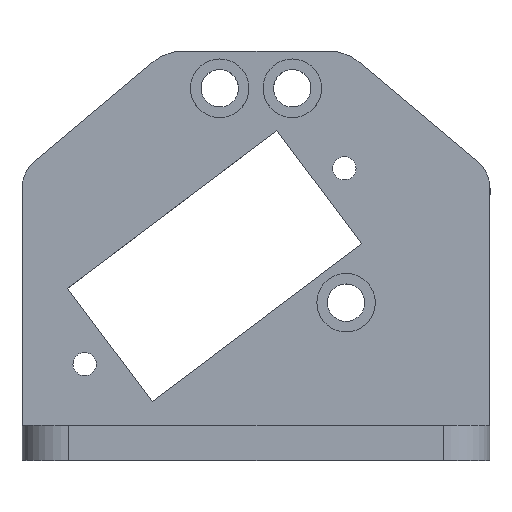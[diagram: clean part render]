
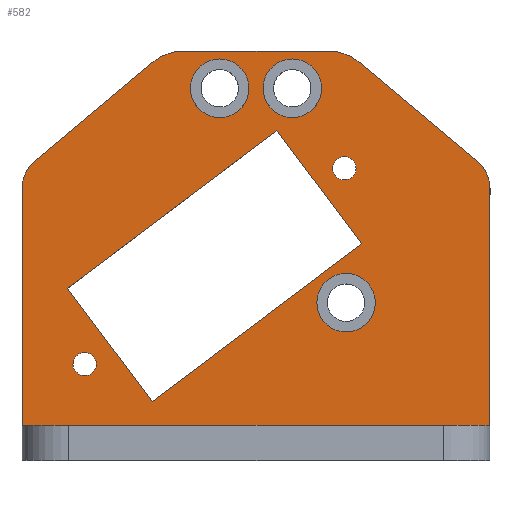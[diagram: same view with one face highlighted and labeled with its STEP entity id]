
A CAD part, top view. The second image highlights one B-rep face of the part: STEP entity #582.
In plain terms, the highlighted planar face has unit normal (0, 0, 1).
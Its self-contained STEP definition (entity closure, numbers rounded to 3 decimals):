
#24=FACE_BOUND('',#118,.T.);
#25=FACE_BOUND('',#119,.T.);
#26=FACE_BOUND('',#120,.T.);
#27=FACE_BOUND('',#121,.T.);
#28=FACE_BOUND('',#122,.T.);
#29=FACE_BOUND('',#123,.T.);
#46=PLANE('',#655);
#77=FACE_OUTER_BOUND('',#117,.T.);
#117=EDGE_LOOP('',(#519,#520,#521,#522,#523,#524,#525,#526,#527,#528));
#118=EDGE_LOOP('',(#529));
#119=EDGE_LOOP('',(#530));
#120=EDGE_LOOP('',(#531));
#121=EDGE_LOOP('',(#532));
#122=EDGE_LOOP('',(#533,#534,#535,#536));
#123=EDGE_LOOP('',(#537));
#135=LINE('',#860,#185);
#140=LINE('',#874,#190);
#151=LINE('',#913,#201);
#154=LINE('',#921,#204);
#159=LINE('',#954,#209);
#164=LINE('',#967,#214);
#166=LINE('',#971,#216);
#168=LINE('',#975,#218);
#170=LINE('',#978,#220);
#173=LINE('',#986,#223);
#185=VECTOR('',#687,10.);
#190=VECTOR('',#700,10.);
#201=VECTOR('',#735,10.);
#204=VECTOR('',#744,10.);
#209=VECTOR('',#785,10.);
#214=VECTOR('',#800,10.);
#216=VECTOR('',#804,10.);
#218=VECTOR('',#808,10.);
#220=VECTOR('',#812,10.);
#223=VECTOR('',#823,10.);
#228=CIRCLE('',#607,3.);
#238=CIRCLE('',#620,3.);
#239=CIRCLE('',#623,4.);
#240=CIRCLE('',#626,4.);
#242=CIRCLE('',#629,2.5);
#245=CIRCLE('',#634,2.5);
#248=CIRCLE('',#639,2.5);
#250=CIRCLE('',#646,1.);
#251=CIRCLE('',#652,1.);
#263=VERTEX_POINT('',#857);
#264=VERTEX_POINT('',#859);
#265=VERTEX_POINT('',#863);
#266=VERTEX_POINT('',#864);
#269=VERTEX_POINT('',#872);
#284=VERTEX_POINT('',#907);
#285=VERTEX_POINT('',#911);
#286=VERTEX_POINT('',#915);
#287=VERTEX_POINT('',#916);
#288=VERTEX_POINT('',#923);
#290=VERTEX_POINT('',#929);
#293=VERTEX_POINT('',#938);
#296=VERTEX_POINT('',#947);
#298=VERTEX_POINT('',#960);
#299=VERTEX_POINT('',#964);
#300=VERTEX_POINT('',#966);
#301=VERTEX_POINT('',#970);
#302=VERTEX_POINT('',#974);
#303=VERTEX_POINT('',#980);
#319=EDGE_CURVE('',#264,#263,#135,.T.);
#321=EDGE_CURVE('',#265,#266,#228,.T.);
#326=EDGE_CURVE('',#265,#269,#140,.T.);
#343=EDGE_CURVE('',#284,#263,#238,.T.);
#346=EDGE_CURVE('',#284,#285,#151,.T.);
#347=EDGE_CURVE('',#286,#287,#239,.T.);
#350=EDGE_CURVE('',#286,#266,#154,.T.);
#351=EDGE_CURVE('',#288,#285,#240,.T.);
#355=EDGE_CURVE('',#290,#290,#242,.T.);
#359=EDGE_CURVE('',#293,#293,#245,.T.);
#363=EDGE_CURVE('',#296,#296,#248,.T.);
#365=EDGE_CURVE('',#269,#264,#159,.T.);
#368=EDGE_CURVE('',#298,#298,#250,.T.);
#371=EDGE_CURVE('',#300,#299,#164,.T.);
#373=EDGE_CURVE('',#301,#300,#166,.T.);
#375=EDGE_CURVE('',#302,#301,#168,.T.);
#377=EDGE_CURVE('',#299,#302,#170,.T.);
#378=EDGE_CURVE('',#303,#303,#251,.T.);
#381=EDGE_CURVE('',#288,#287,#173,.T.);
#519=ORIENTED_EDGE('',*,*,#321,.F.);
#520=ORIENTED_EDGE('',*,*,#326,.T.);
#521=ORIENTED_EDGE('',*,*,#365,.T.);
#522=ORIENTED_EDGE('',*,*,#319,.T.);
#523=ORIENTED_EDGE('',*,*,#343,.F.);
#524=ORIENTED_EDGE('',*,*,#346,.T.);
#525=ORIENTED_EDGE('',*,*,#351,.F.);
#526=ORIENTED_EDGE('',*,*,#381,.T.);
#527=ORIENTED_EDGE('',*,*,#347,.F.);
#528=ORIENTED_EDGE('',*,*,#350,.T.);
#529=ORIENTED_EDGE('',*,*,#355,.T.);
#530=ORIENTED_EDGE('',*,*,#359,.T.);
#531=ORIENTED_EDGE('',*,*,#363,.T.);
#532=ORIENTED_EDGE('',*,*,#378,.T.);
#533=ORIENTED_EDGE('',*,*,#377,.T.);
#534=ORIENTED_EDGE('',*,*,#375,.T.);
#535=ORIENTED_EDGE('',*,*,#373,.T.);
#536=ORIENTED_EDGE('',*,*,#371,.T.);
#537=ORIENTED_EDGE('',*,*,#368,.T.);
#582=ADVANCED_FACE('',(#77,#24,#25,#26,#27,#28,#29),#46,.T.);
#607=AXIS2_PLACEMENT_3D('',#865,#691,#692);
#620=AXIS2_PLACEMENT_3D('',#908,#729,#730);
#623=AXIS2_PLACEMENT_3D('',#917,#738,#739);
#626=AXIS2_PLACEMENT_3D('',#924,#747,#748);
#629=AXIS2_PLACEMENT_3D('',#931,#755,#756);
#634=AXIS2_PLACEMENT_3D('',#940,#766,#767);
#639=AXIS2_PLACEMENT_3D('',#949,#777,#778);
#646=AXIS2_PLACEMENT_3D('',#961,#794,#795);
#652=AXIS2_PLACEMENT_3D('',#981,#815,#816);
#655=AXIS2_PLACEMENT_3D('',#987,#824,#825);
#687=DIRECTION('',(0.,1.,0.));
#691=DIRECTION('center_axis',(0.,0.,-1.));
#692=DIRECTION('ref_axis',(-0.906,0.423,0.));
#700=DIRECTION('',(0.,-1.,0.));
#729=DIRECTION('center_axis',(0.,0.,-1.));
#730=DIRECTION('ref_axis',(0.906,0.423,0.));
#735=DIRECTION('',(-0.766,0.643,0.));
#738=DIRECTION('center_axis',(0.,0.,-1.));
#739=DIRECTION('ref_axis',(-0.342,0.94,0.));
#744=DIRECTION('',(-0.766,-0.643,0.));
#747=DIRECTION('center_axis',(0.,0.,-1.));
#748=DIRECTION('ref_axis',(0.342,0.94,0.));
#755=DIRECTION('center_axis',(0.,0.,-1.));
#756=DIRECTION('ref_axis',(-1.,0.,0.));
#766=DIRECTION('center_axis',(0.,0.,-1.));
#767=DIRECTION('ref_axis',(-1.,0.,0.));
#777=DIRECTION('center_axis',(0.,0.,-1.));
#778=DIRECTION('ref_axis',(-1.,0.,0.));
#785=DIRECTION('',(1.,0.,0.));
#794=DIRECTION('center_axis',(0.,0.,-1.));
#795=DIRECTION('ref_axis',(1.,0.,0.));
#800=DIRECTION('',(-0.602,0.799,0.));
#804=DIRECTION('',(-0.799,-0.602,0.));
#808=DIRECTION('',(0.602,-0.799,0.));
#812=DIRECTION('',(0.799,0.602,0.));
#815=DIRECTION('center_axis',(0.,0.,-1.));
#816=DIRECTION('ref_axis',(1.,0.,0.));
#823=DIRECTION('',(-1.,0.,0.));
#824=DIRECTION('center_axis',(0.,0.,1.));
#825=DIRECTION('ref_axis',(1.,0.,0.));
#857=CARTESIAN_POINT('',(20.,5.78,5.));
#859=CARTESIAN_POINT('',(20.,-14.5,5.));
#860=CARTESIAN_POINT('',(20.,17.5,5.));
#863=CARTESIAN_POINT('',(-20.,5.78,5.));
#864=CARTESIAN_POINT('',(-18.928,8.078,5.));
#865=CARTESIAN_POINT('Origin',(-17.,5.78,5.));
#872=CARTESIAN_POINT('',(-20.,-14.5,5.));
#874=CARTESIAN_POINT('',(-20.,-17.5,5.));
#907=CARTESIAN_POINT('',(18.928,8.078,5.));
#908=CARTESIAN_POINT('Origin',(17.,5.78,5.));
#911=CARTESIAN_POINT('',(8.815,16.564,5.));
#913=CARTESIAN_POINT('',(7.7,17.5,5.));
#915=CARTESIAN_POINT('',(-8.815,16.564,5.));
#916=CARTESIAN_POINT('',(-6.244,17.5,5.));
#917=CARTESIAN_POINT('Origin',(-6.244,13.5,5.));
#921=CARTESIAN_POINT('',(-7.7,17.5,5.));
#923=CARTESIAN_POINT('',(6.244,17.5,5.));
#924=CARTESIAN_POINT('Origin',(6.244,13.5,5.));
#929=CARTESIAN_POINT('',(5.6,14.33,5.));
#931=CARTESIAN_POINT('Origin',(3.1,14.33,5.));
#938=CARTESIAN_POINT('',(-0.6,14.33,5.));
#940=CARTESIAN_POINT('Origin',(-3.1,14.33,5.));
#947=CARTESIAN_POINT('',(10.2,-4.,5.));
#949=CARTESIAN_POINT('Origin',(7.7,-4.,5.));
#954=CARTESIAN_POINT('',(-20.,-14.5,5.));
#960=CARTESIAN_POINT('',(6.554,7.495,5.));
#961=CARTESIAN_POINT('Origin',(7.554,7.495,5.));
#964=CARTESIAN_POINT('',(-16.133,-2.779,5.));
#966=CARTESIAN_POINT('',(-8.851,-12.443,5.));
#967=CARTESIAN_POINT('',(-16.133,-2.779,5.));
#970=CARTESIAN_POINT('',(9.039,1.038,5.));
#971=CARTESIAN_POINT('',(-8.851,-12.443,5.));
#974=CARTESIAN_POINT('',(1.757,10.702,5.));
#975=CARTESIAN_POINT('',(9.039,1.038,5.));
#978=CARTESIAN_POINT('',(1.757,10.702,5.));
#980=CARTESIAN_POINT('',(-15.648,-9.236,5.));
#981=CARTESIAN_POINT('Origin',(-14.648,-9.236,5.));
#986=CARTESIAN_POINT('',(-20.,17.5,5.));
#987=CARTESIAN_POINT('Origin',(0.,1.5,5.));
